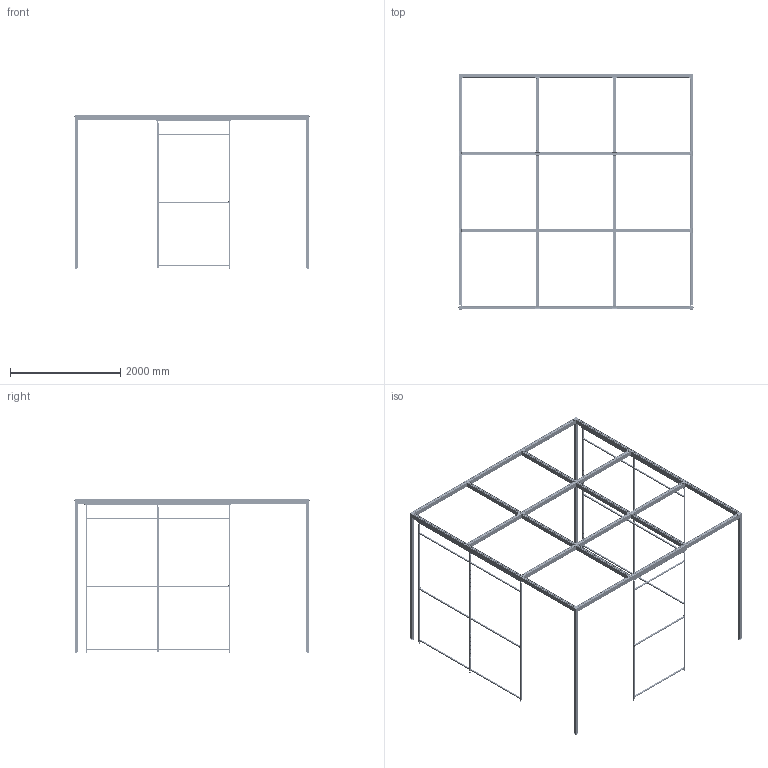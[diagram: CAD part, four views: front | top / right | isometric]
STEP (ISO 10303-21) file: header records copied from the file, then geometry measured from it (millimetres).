
FILE_DESCRIPTION (( 'STEP AP214' ), '1' );
FILE_NAME ('Aufbau3.STEP', '2025-10-08T13:59:49', ( '' ), ( '' ), 'SwSTEP 2.0', 'SolidWorks 2025', '' );
FILE_SCHEMA (( 'AUTOMOTIVE_DESIGN' ));
Length unit declared in the file: millimetre
Products named in the file (1): Aufbau3
Bounding box: 4262.4 x 4262.4 x 2802 mm (x, y, z)
Volume: 117019132.3 mm3; surface area: 32885160.4 mm2
Topology: 123 solids, 123 shells, 12818 faces, 36122 edges, 23796 vertices
Faces by surface type: plane 7976, cylinder 4278, bspline 312, cone 160, torus 60, sphere 32
Entity records: 444075 total; most frequent: CARTESIAN_POINT 106461, ORIENTED_EDGE 72244, DIRECTION 67808, EDGE_CURVE 36122, VECTOR 26614, LINE 26614, VERTEX_POINT 23796, AXIS2_PLACEMENT_3D 20597
